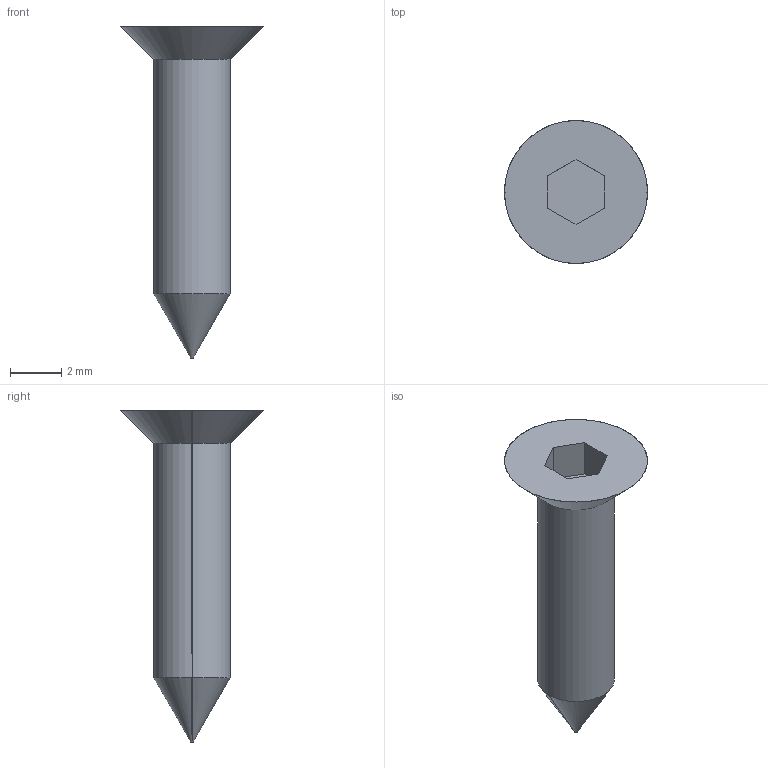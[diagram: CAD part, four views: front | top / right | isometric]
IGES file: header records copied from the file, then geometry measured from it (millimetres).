
Start section: SolidWorks IGES file using analytic representation for surfaces
Global section: file name: C:\Users\AndreBernot\Downloads\K-RACER-L_3D_SW\K-RACER-L_3D_SW\VIS TORCX TF 3 X 13 noire.IGS; native system: SolidWorks 2015; preprocessor: SolidWorks 2015; author: AndreBernot; date: 170922.151847; units: millimetre
Bounding box: 5.6 x 5.6 x 13 mm (x, y, z)
Surface area: 161.6 mm2 (no closed solid volume)
Topology: 0 solids, 0 shells, 15 faces, 100 edges, 100 vertices
Faces by surface type: bspline 9, revolution 6
